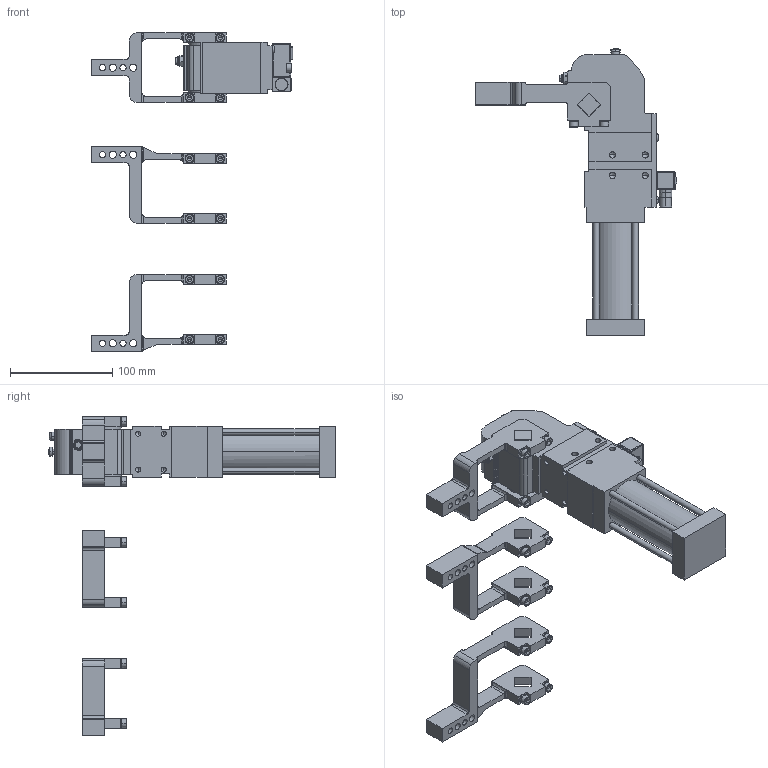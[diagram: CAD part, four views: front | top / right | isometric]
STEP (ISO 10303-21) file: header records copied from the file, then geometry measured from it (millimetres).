
FILE_DESCRIPTION((''),'2;1');
FILE_NAME('S:\Matthew\Step Files (Power Clamps) v.3.14\XSM Power Clamps\XSM 140.stp','2006-07-27T15:13:12',('Matthew'),(''),'Autodesk Inventor 8','Autodesk Inventor 8','');
FILE_SCHEMA(('AUTOMOTIVE_DESIGN { 1 0 10303 214 1 1 1 1 }'));
Length unit declared in the file: millimetre
Products named in the file (6): XSM 140; XSM 1401; XSM 1402; XSM 1403; XSM 1404; XSM 1405
Assembly tree (5 placements, depth 2):
  XSM 140
    XSM 1401
    XSM 1402
    XSM 1403
    XSM 1404
    XSM 1405
Bounding box: 196.72 x 280.2 x 311.25 mm (x, y, z)
Volume: 945715.2 mm3; surface area: 161253.6 mm2
Topology: 5 solids, 6 shells, 910 faces, 2499 edges, 1596 vertices
Faces by surface type: plane 321, cylinder 274, bspline 267, cone 28, sphere 16, torus 4
Entity records: 33024 total; most frequent: CARTESIAN_POINT 10545, ORIENTED_EDGE 4866, DIRECTION 4487, EDGE_CURVE 2433, AXIS2_PLACEMENT_3D 1598, VERTEX_POINT 1596, VECTOR 1291, LINE 1291
